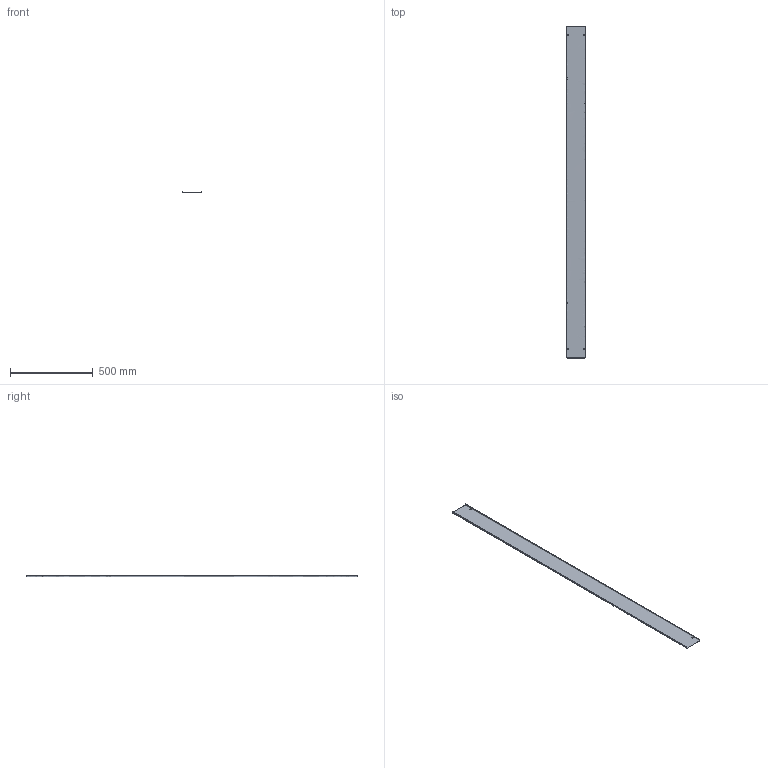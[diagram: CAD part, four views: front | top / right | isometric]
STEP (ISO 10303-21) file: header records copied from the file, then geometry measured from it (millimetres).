
FILE_DESCRIPTION(/* description */ (''),/* implementation_level */ '2;1');
FILE_NAME(/* name */ 'VZM100',/* time_stamp */ '2012-11-29T22:52:15+01:00',/* author */ (''),/* organization */ (''),/* preprocessor_version */ 'ST-DEVELOPER v10',/* originating_system */ '',/* authorisation */ '');
FILE_SCHEMA (('AUTOMOTIVE_DESIGN_CC2'));
Length unit declared in the file: millimetre
Products named in the file (1): 1
Bounding box: 111 x 2002 x 10.5 mm (x, y, z)
Surface area: 516960.7 mm2 (no closed solid volume)
Topology: 0 solids, 22 shells, 22 faces, 120 edges, 120 vertices
Faces by surface type: plane 20, bspline 2
Entity records: 1484 total; most frequent: CARTESIAN_POINT 626, ORIENTED_EDGE 120, EDGE_CURVE 120, VERTEX_POINT 120, B_SPLINE_CURVE_WITH_KNOTS 112, EDGE_LOOP 30, DIRECTION 24, COLOUR_RGB 22
